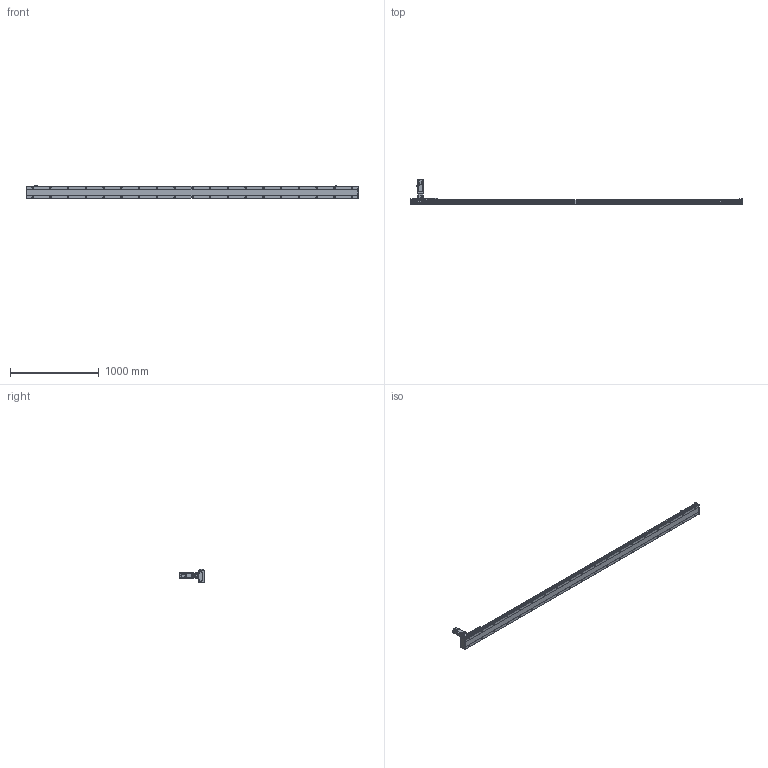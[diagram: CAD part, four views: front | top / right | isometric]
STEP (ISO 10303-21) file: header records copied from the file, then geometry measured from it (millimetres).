
FILE_DESCRIPTION(/* description */ ('STEP AP203'),/* implementation_level */ '2;1');
FILE_NAME(/* name */ 'SHS14A-L10-S3400-BC-T40-C1-N(0)',/* time_stamp */ '2023-03-27T08:53:02+02:00',/* author */ ('License CC BY-ND 4.0'),/* organization */ ('CADENAS'),/* preprocessor_version */ 'ST-DEVELOPER v19.3',/* originating_system */ 'PARTsolutions',/* authorisation */ ' ');
FILE_SCHEMA (('CONFIG_CONTROL_DESIGN'));
Length unit declared in the file: millimetre
Products named in the file (7): SHS14A-L10-S3400-BC-T40-C1-N(0); PSC140-sensor; T40-p1; SHS14AT_body3; SHS14A-3400_slider; SHS14A_body2; SHS14A-S3400-BC-T40-C1(0)_body
Assembly tree (13 placements, depth 2):
  SHS14A-L10-S3400-BC-T40-C1-N(0)
    PSC140-sensor  x3
    T40-p1
    SHS14AT_body3
    SHS14A-3400_slider
    SHS14A_body2  x6
    SHS14A-S3400-BC-T40-C1(0)_body
Bounding box: 3740 x 272.7 x 150.9 mm (x, y, z)
Volume: 15073393.3 mm3; surface area: 2334974.5 mm2
Topology: 13 solids, 13 shells, 2204 faces, 5623 edges, 3676 vertices
Faces by surface type: plane 1509, cylinder 595, cone 90, torus 10
Full cylindrical faces by diameter (mm): 2.8 x3, 4.134 x24, 4.2 x7, 4.4 x24, 4.5 x24, 4.6 x3, 4.8 x24, 4.917 x46, 5 x8, 5.5 x11, 5.94 x6, 6 x2, 6.6 x38, 8 x24, 8.49 x4, 8.5 x4, 9 x4, 10.5 x38, 13.964 x1, 14 x1, 14.182 x1, 16 x1, 18.974 x1, 19.274 x1, 19.774 x1, 19.8 x1, 34.442 x1, 42 x1, 50 x5
Entity records: 36448 total; most frequent: CARTESIAN_POINT 6552, DIRECTION 6157, ORIENTED_EDGE 5622, EDGE_CURVE 2811, AXIS2_PLACEMENT_3D 2177, VERTEX_POINT 2020, EDGE_LOOP 1889, FACE_BOUND 1889
